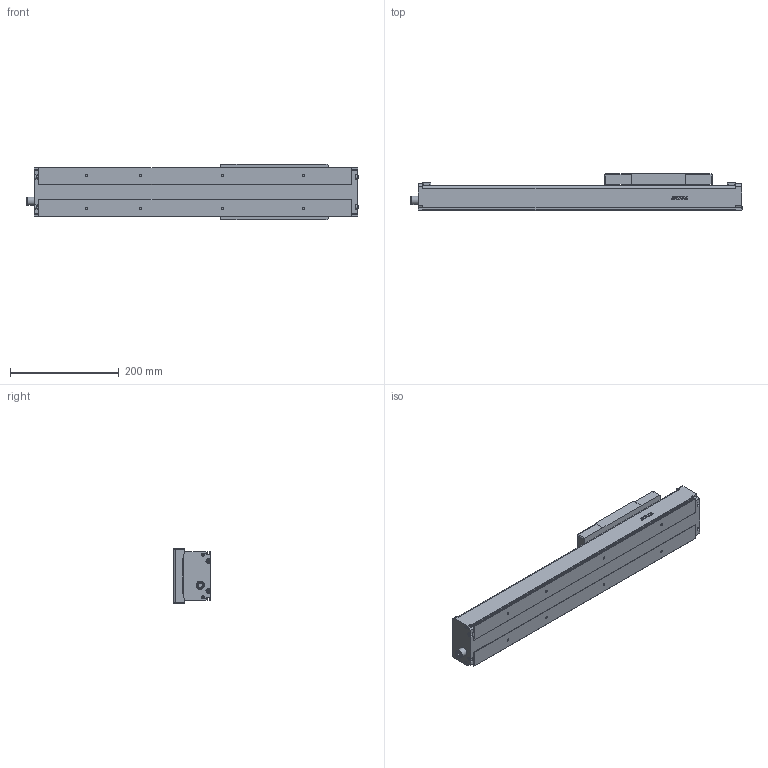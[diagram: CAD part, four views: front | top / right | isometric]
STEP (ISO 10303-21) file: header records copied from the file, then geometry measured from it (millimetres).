
FILE_DESCRIPTION(/* description */ (''),/* implementation_level */ '2;1');
FILE_NAME(/* name */ 'D:\混合母檔20191031\混和母檔\混和母檔\bin\Debug\Download\3D\KS90-5C-300AF0\KS90-5C-300AF0.stp',/* time_stamp */ '2019-11-04T14:34:05+08:00',/* author */ ('user'),/* organization */ (''),/* preprocessor_version */ 'ST-DEVELOPER v16.13',/* originating_system */ 'Autodesk Inventor 2018',/* authorisation */ '');
FILE_SCHEMA (('AUTOMOTIVE_DESIGN { 1 0 10303 214 3 1 1 }'));
Length unit declared in the file: millimetre
Products named in the file (3): KS90-5C-300AF0; KS90-F0; KS90-SL
Assembly tree (2 placements, depth 2):
  KS90-5C-300AF0
    KS90-F0
    KS90-SL
Bounding box: 611.6 x 68.5 x 102.4 mm (x, y, z)
Volume: 1107689.9 mm3; surface area: 407172.8 mm2
Topology: 3 solids, 13 shells, 1015 faces, 2782 edges, 1836 vertices
Faces by surface type: plane 563, cylinder 144, bspline 136, cone 120, torus 48, sphere 4
Full cylindrical faces by diameter (mm): 2.113 x2, 2.459 x8, 2.5 x4, 2.693 x8, 3 x12, 3.242 x6, 3.5 x8, 4 x7, 4.134 x8, 4.5 x8, 4.917 x4, 5.5 x12, 6 x3, 7 x4, 8 x2, 10.437 x1, 11 x1, 11.5 x1, 14 x1, 15.538 x1, 28 x1, 30 x1
Entity records: 37793 total; most frequent: CARTESIAN_POINT 14038, ORIENTED_EDGE 5006, DIRECTION 4436, EDGE_CURVE 2503, VERTEX_POINT 1725, LINE 1498, VECTOR 1498, AXIS2_PLACEMENT_3D 1469
